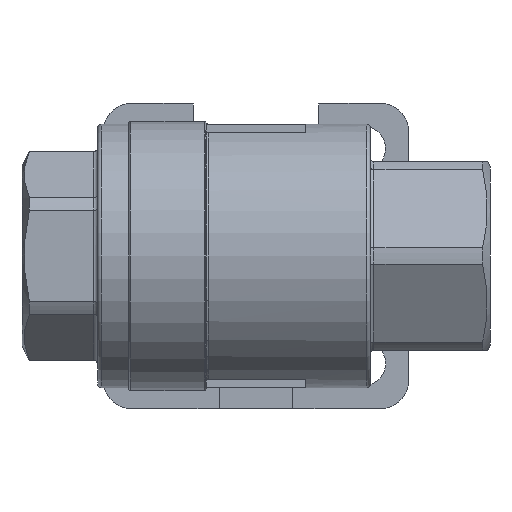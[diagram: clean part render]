
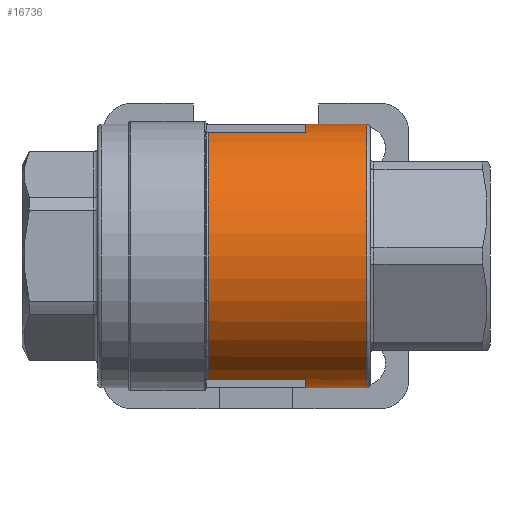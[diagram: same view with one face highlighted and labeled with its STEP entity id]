
A CAD part, front view. The second image highlights one B-rep face of the part: STEP entity #16736.
In plain terms, the highlighted cylindrical face has radius 18.161 mm (diameter 36.322 mm), a partial arc.
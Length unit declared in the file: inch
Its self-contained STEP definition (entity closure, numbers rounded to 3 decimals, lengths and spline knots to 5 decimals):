
#39 = FACE_OUTER_BOUND ( 'NONE', #10126, .T. ) ;
#644 = CIRCLE ( 'NONE', #13537, 0.715 ) ;
#1595 = DIRECTION ( 'NONE',  ( 0., 0., 1. ) ) ;
#2498 = EDGE_CURVE ( 'NONE', #9438, #10604, #4763, .T. ) ;
#2583 = CARTESIAN_POINT ( 'NONE',  ( 0.27, -0.25, -0.66987 ) ) ;
#2718 = DIRECTION ( 'NONE',  ( -1., 0., 0. ) ) ;
#2791 = ORIENTED_EDGE ( 'NONE', *, *, #26493, .F. ) ;
#3803 = CARTESIAN_POINT ( 'NONE',  ( -6.38573, -0.25, -0.66987 ) ) ;
#3935 = EDGE_CURVE ( 'NONE', #8381, #9438, #7925, .T. ) ;
#4763 = CIRCLE ( 'NONE', #14847, 0.715 ) ;
#5216 = DIRECTION ( 'NONE',  ( 1., 0., 0. ) ) ;
#6093 = DIRECTION ( 'NONE',  ( -1., 0., 0. ) ) ;
#6528 = DIRECTION ( 'NONE',  ( -1., 0., 0. ) ) ;
#7363 = VERTEX_POINT ( 'NONE', #18796 ) ;
#7885 = DIRECTION ( 'NONE',  ( -1., 0., 0. ) ) ;
#7925 = LINE ( 'NONE', #11383, #18388 ) ;
#8381 = VERTEX_POINT ( 'NONE', #20789 ) ;
#8684 = DIRECTION ( 'NONE',  ( -1., 0., 0. ) ) ;
#9039 = CARTESIAN_POINT ( 'NONE',  ( 0.6, 0., 0.715 ) ) ;
#9340 = VECTOR ( 'NONE', #2718, 39.37008 ) ;
#9438 = VERTEX_POINT ( 'NONE', #13140 ) ;
#9440 = CARTESIAN_POINT ( 'NONE',  ( 0.6, 0., 0. ) ) ;
#9503 = VERTEX_POINT ( 'NONE', #9039 ) ;
#10126 = EDGE_LOOP ( 'NONE', ( #21370, #18527, #17334, #21032, #19160, #18240, #2791, #14828 ) ) ;
#10604 = VERTEX_POINT ( 'NONE', #2583 ) ;
#11383 = CARTESIAN_POINT ( 'NONE',  ( -6.38573, 0., -0.715 ) ) ;
#11549 = DIRECTION ( 'NONE',  ( 0., 0., 1. ) ) ;
#11735 = VERTEX_POINT ( 'NONE', #26333 ) ;
#11780 = CARTESIAN_POINT ( 'NONE',  ( 0.27, 0., 0.715 ) ) ;
#12524 = VERTEX_POINT ( 'NONE', #11780 ) ;
#12605 = LINE ( 'NONE', #3803, #23061 ) ;
#13013 = EDGE_CURVE ( 'NONE', #8381, #9503, #644, .T. ) ;
#13121 = CARTESIAN_POINT ( 'NONE',  ( -6.38573, 0., 0.715 ) ) ;
#13140 = CARTESIAN_POINT ( 'NONE',  ( 0.27, 0., -0.715 ) ) ;
#13454 = DIRECTION ( 'NONE',  ( -1., 0., 0. ) ) ;
#13537 = AXIS2_PLACEMENT_3D ( 'NONE', #9440, #24051, #11549 ) ;
#14828 = ORIENTED_EDGE ( 'NONE', *, *, #2498, .F. ) ;
#14847 = AXIS2_PLACEMENT_3D ( 'NONE', #19051, #6528, #21169 ) ;
#16287 = CIRCLE ( 'NONE', #21121, 0.715 ) ;
#16736 = ADVANCED_FACE ( 'NONE', ( #39 ), #20943, .T. ) ;
#17334 = ORIENTED_EDGE ( 'NONE', *, *, #26847, .T. ) ;
#17721 = CARTESIAN_POINT ( 'NONE',  ( 0.27, 0., 0. ) ) ;
#18240 = ORIENTED_EDGE ( 'NONE', *, *, #24709, .F. ) ;
#18299 = CARTESIAN_POINT ( 'NONE',  ( -6.38573, 0., 0. ) ) ;
#18388 = VECTOR ( 'NONE', #13454, 39.37008 ) ;
#18413 = DIRECTION ( 'NONE',  ( -1., 0., 0. ) ) ;
#18527 = ORIENTED_EDGE ( 'NONE', *, *, #13013, .T. ) ;
#18626 = AXIS2_PLACEMENT_3D ( 'NONE', #18299, #7885, #1595 ) ;
#18628 = CARTESIAN_POINT ( 'NONE',  ( -0.25965, 0., 0. ) ) ;
#18796 = CARTESIAN_POINT ( 'NONE',  ( -0.25965, -0.25, -0.66987 ) ) ;
#18844 = CIRCLE ( 'NONE', #25317, 0.715 ) ;
#19051 = CARTESIAN_POINT ( 'NONE',  ( 0.27, 0., 0. ) ) ;
#19160 = ORIENTED_EDGE ( 'NONE', *, *, #23539, .T. ) ;
#19833 = DIRECTION ( 'NONE',  ( 0., 1., 0. ) ) ;
#19932 = CARTESIAN_POINT ( 'NONE',  ( 0.27, -0.25, 0.66987 ) ) ;
#20369 = EDGE_CURVE ( 'NONE', #12524, #20393, #16287, .T. ) ;
#20393 = VERTEX_POINT ( 'NONE', #19932 ) ;
#20452 = LINE ( 'NONE', #13121, #9340 ) ;
#20731 = DIRECTION ( 'NONE',  ( 0., 0., 1. ) ) ;
#20789 = CARTESIAN_POINT ( 'NONE',  ( 0.6, 0., -0.715 ) ) ;
#20943 = CYLINDRICAL_SURFACE ( 'NONE', #18626, 0.715 ) ;
#21032 = ORIENTED_EDGE ( 'NONE', *, *, #20369, .T. ) ;
#21121 = AXIS2_PLACEMENT_3D ( 'NONE', #17721, #5216, #19833 ) ;
#21157 = VECTOR ( 'NONE', #8684, 39.37008 ) ;
#21169 = DIRECTION ( 'NONE',  ( 0., -1., 0. ) ) ;
#21370 = ORIENTED_EDGE ( 'NONE', *, *, #3935, .F. ) ;
#23061 = VECTOR ( 'NONE', #18413, 39.37008 ) ;
#23205 = CARTESIAN_POINT ( 'NONE',  ( -6.38573, -0.25, 0.66987 ) ) ;
#23539 = EDGE_CURVE ( 'NONE', #20393, #11735, #26729, .T. ) ;
#24051 = DIRECTION ( 'NONE',  ( -1., 0., 0. ) ) ;
#24709 = EDGE_CURVE ( 'NONE', #7363, #11735, #18844, .T. ) ;
#25317 = AXIS2_PLACEMENT_3D ( 'NONE', #18628, #6093, #20731 ) ;
#26333 = CARTESIAN_POINT ( 'NONE',  ( -0.25965, -0.25, 0.66987 ) ) ;
#26493 = EDGE_CURVE ( 'NONE', #10604, #7363, #12605, .T. ) ;
#26729 = LINE ( 'NONE', #23205, #21157 ) ;
#26847 = EDGE_CURVE ( 'NONE', #9503, #12524, #20452, .T. ) ;
